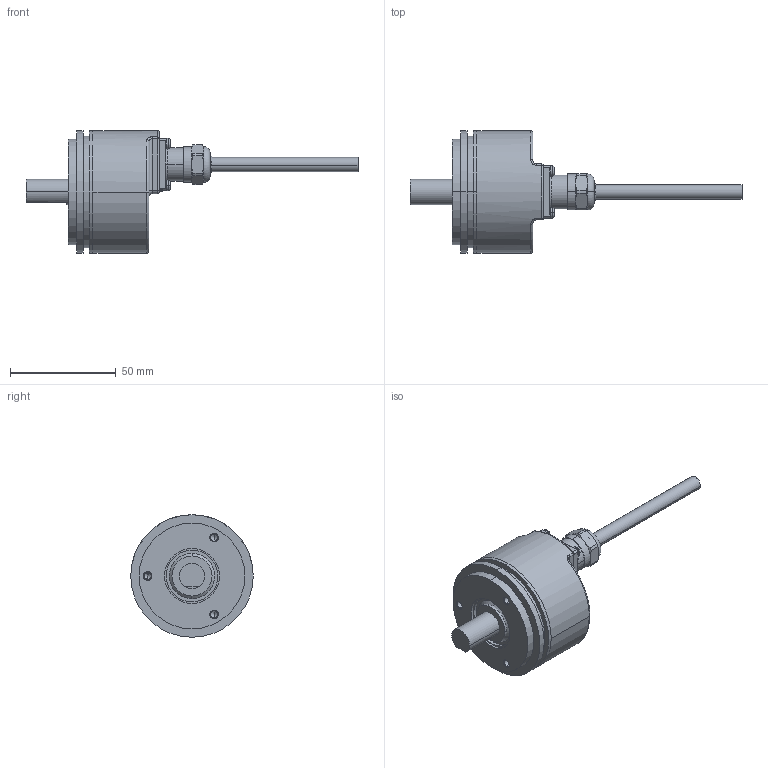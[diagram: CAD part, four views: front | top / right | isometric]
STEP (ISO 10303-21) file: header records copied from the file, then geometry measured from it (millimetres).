
FILE_DESCRIPTION (( 'STEP AP203' ), '1' );
FILE_NAME ('K58I.OXX.XXXXX.XS1S512.6XA11.XXXX.step', '2025-12-08T16:39:15', ( '' ), ( '' ), 'SwSTEP 2.0', 'SolidWorks 2021', '' );
FILE_SCHEMA (( 'CONFIG_CONTROL_DESIGN' ));
Length unit declared in the file: millimetre
Products named in the file (1): K58I.OXX.XXXXX.XS1S512.6XA11.XXXX
Bounding box: 157.19 x 58 x 58 mm (x, y, z)
Volume: 132992.4 mm3; surface area: 34085 mm2
Topology: 8 solids, 8 shells, 511 faces, 1255 edges, 781 vertices
Faces by surface type: cylinder 229, plane 137, cone 44, bspline 42, torus 41, sphere 18
Entity records: 17077 total; most frequent: CARTESIAN_POINT 5002, DIRECTION 2596, ORIENTED_EDGE 2498, EDGE_CURVE 1249, AXIS2_PLACEMENT_3D 1041, VERTEX_POINT 781, CIRCLE 571, EDGE_LOOP 550
